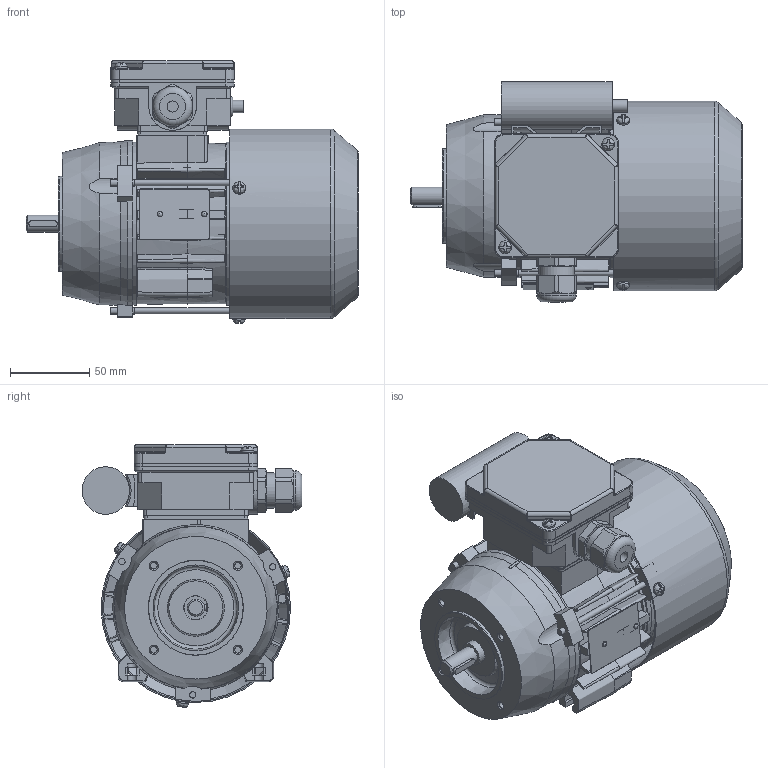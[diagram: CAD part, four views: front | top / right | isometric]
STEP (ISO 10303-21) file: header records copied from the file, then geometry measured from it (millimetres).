
FILE_DESCRIPTION( ( 'Unknown' ), '1' );
FILE_NAME( 'G:/Poczta Tk-1/STP/w.m.63/SEh63/SE(M)Kh63-B2.stp', 'Unknown', ( 'K. Szlosek' ), ( 'BESEL S.A.' ), 'PSStep 17.0.49', 'Unknown', ' ' );
FILE_SCHEMA( ( 'AUTOMOTIVE_DESIGN { 1 0 10303 214 1 1 1 1 }' ) );
Length unit declared in the file: millimetre
Products named in the file (32): Assem1; K3-5320 Tarcza łożyskowa P Sg63; K4-2320 Uszczelka nr 1 Sh71,80; Wpust A4x4x18; K4-2820 Uszczelka nr 2 Sh71,80; K2-0860 Pokrywka skrzynki zaciskowej; Wkręt samogwintujący M4x16; K4-0898 Tulejka uszczelniająca; Kondensator zb 8-10uF; K2-1769 Przewietrznik Sg63; Wkręt samogwintujący M4x8; K3-9974 wał Sh63-A,B standard; K3-9973 Kadłub ze stojanem wykończonym Sh63-B; K3-9440 Podstawa  skrzynki zaciskowej SEhR71-D; K3-1974 Uchwyt kondensatora (mały); K1-1112 Tarcza kołnierzowa B14_2 SKg63-..2; K3-5321 osłona przewietrznika Sg63; Nitokołek A 2x6; Dławnica M20x1,5; Łożysko 6202; Śruba ściągająca E_M4x85; Tabliczka znamionowa 32x44
Assembly tree (48 placements, depth 2):
  Assem1
    K3-5320 Tarcza łożyskowa P Sg63
    K4-2320 Uszczelka nr 1 Sh71,80
    Wpust A4x4x18
    K4-2820 Uszczelka nr 2 Sh71,80
    K2-0860 Pokrywka skrzynki zaciskowej
    Wkręt samogwintujący M4x16  x2
    K4-0898 Tulejka uszczelniająca
    Kondensator zb 8-10uF
    K2-1769 Przewietrznik Sg63
    Wkręt samogwintujący M4x8  x3
    K3-9974 wał Sh63-A,B standard
    K3-9973 Kadłub ze stojanem wykończonym Sh63-B
    K3-9440 Podstawa  skrzynki zaciskowej SEhR71-D
    K3-1974 Uchwyt kondensatora (mały)
    K1-1112 Tarcza kołnierzowa B14_2 SKg63-..2
    K3-5321 osłona przewietrznika Sg63
    Nitokołek A 2x6  x2
    Dławnica M20x1,5
    Łożysko 6202  x2
    Łożysko 6202  x2
    Łożysko 6202  x2
    Łożysko 6202  x2
    Łożysko 6202  x2
    Łożysko 6202  x2
    Łożysko 6202  x2
    Łożysko 6202  x2
    Łożysko 6202  x2
    Łożysko 6202  x2
    Łożysko 6202  x2
    Śruba ściągająca E_M4x85  x3
    Tabliczka znamionowa 32x44
Bounding box: 209.5 x 138.82 x 165.9 mm (x, y, z)
Volume: 529418.4 mm3; surface area: 348670.2 mm2
Topology: 48 solids, 66 shells, 1922 faces, 5264 edges, 3419 vertices
Faces by surface type: plane 956, cylinder 566, cone 142, torus 120, bspline 99, sphere 39
Full cylindrical faces by diameter (mm): 2 x2, 2.4 x2, 3 x1, 3.242 x3, 3.5 x2, 3.7 x10, 4 x8, 4.134 x4, 4.5 x4, 4.6 x1, 4.8 x4, 5 x4, 6.5 x1, 7 x4, 8 x7, 10 x2, 11 x1, 12.9 x1, 13.1 x1, 13.5 x1, 15 x4, 15.4 x2, 18.38 x1, 18.5 x1, 19 x2, 19.5 x1, 20 x2, 20.1 x1, 21.52 x4, 22.3 x1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
Entity records: 82961 total; most frequent: CARTESIAN_POINT 26119, ORIENTED_EDGE 9072, DIRECTION 8714, EDGE_CURVE 4536, AXIS2_PLACEMENT_3D 3253, VERTEX_POINT 3096, LINE 2208, VECTOR 2208
